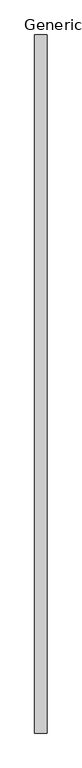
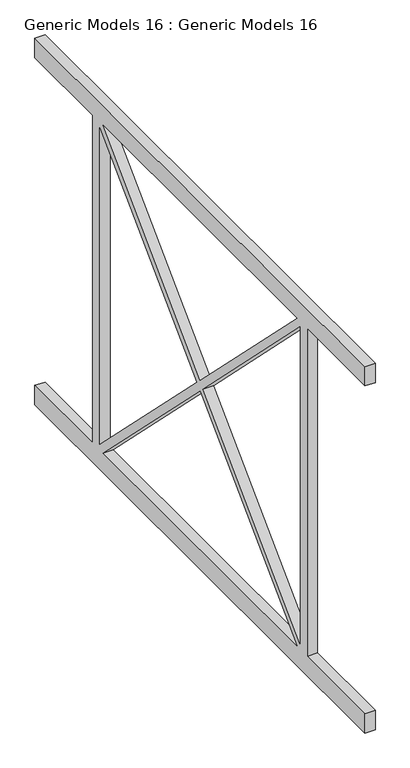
"""IFC4 building model written with IfcOpenShell, lengths in millimetres: proxy geometry, Generic Models 16 : Generic Models 16."""

from ifc_helpers import new_model, si_unit, frame, origin, place, context, project, spatial, polyline, outline, extrude, source, transform, mapped, element, save


def generic_models_16_generic_models_16_7fd303db(model_context):
    return source(origin(), model_context, "Body", "SweptSolid", [
        extrude(outline(polyline([(10428.4977909, 4247.8628218), (10428.4977909, 4297.8628218), (11828.459913, 4297.8628218), (11828.459913, 4247.8628218), (11583.4977909, 4247.8628218), (11583.4977909, 3400.0), (11828.459913, 3400.0), (11828.459913, 3350.0), (10428.4977909, 3350.0), (10428.4977909, 3400.0), (10673.4977909, 3400.0), (10673.4977909, 4247.8628218), (10428.4977909, 4247.8628218)]), holes=[polyline([(10703.4977909, 3414.1243678), (11114.3378203, 3823.9314109), (10703.4977909, 4233.738454), (10703.4977909, 3414.1243678)]), polyline([(11539.3378203, 3400.0), (11128.4977909, 3809.8070431), (10717.6577616, 3400.0), (11539.3378203, 3400.0)]), polyline([(11553.4977909, 4233.738454), (11142.6577616, 3823.9314109), (11553.4977909, 3414.1243678), (11553.4977909, 4233.738454)]), polyline([(10717.6577616, 4247.8628218), (11128.4977909, 3838.0557788), (11539.3378203, 4247.8628218), (10717.6577616, 4247.8628218)])]), frame((12700.0001123, 0.0, 0.0), z_axis=(1.0, 0.0, 0.0), x_axis=(0.0, 1.0, 0.0)), (0.0, 0.0, 1.0), 25.0),
    ])


if __name__ == "__main__":
    model = new_model("IFC4")
    model_context = context("Model", 3, world=origin())
    ifc_project = project(units=[si_unit("LENGTHUNIT", "METRE", prefix="MILLI")], contexts=[model_context])
    site = spatial("IfcSite", under=ifc_project)
    building = spatial("IfcBuilding", under=site)
    placement = place(None, origin())
    generic_models_16_generic_models_16_shape = generic_models_16_generic_models_16_7fd303db(model_context)
    element("IfcBuildingElementProxy", 1, Name="Generic Models 16 : Generic Models 16", ObjectType="Generic Models 16 : Generic Models 16", at=placement, inside=building, context=model_context, shape_type="MappedRepresentation", body=[
        mapped(generic_models_16_generic_models_16_shape, transform((0.0, 0.0, 0.0), x_axis=(1.0, 0.0, 0.0), y_axis=(0.0, 1.0, 0.0), z_axis=(0.0, 0.0, 1.0))),
    ])
    save(model, "model.ifc")
